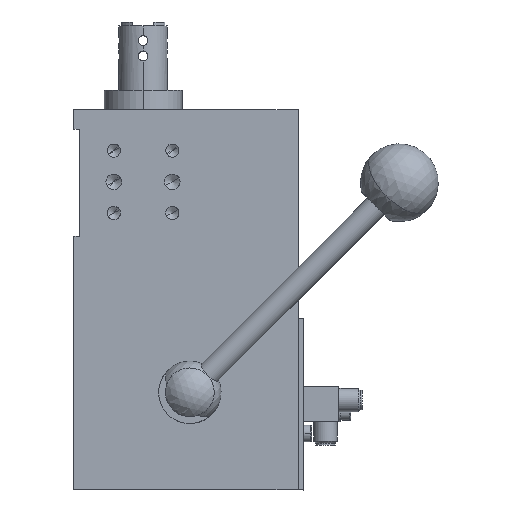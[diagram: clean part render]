
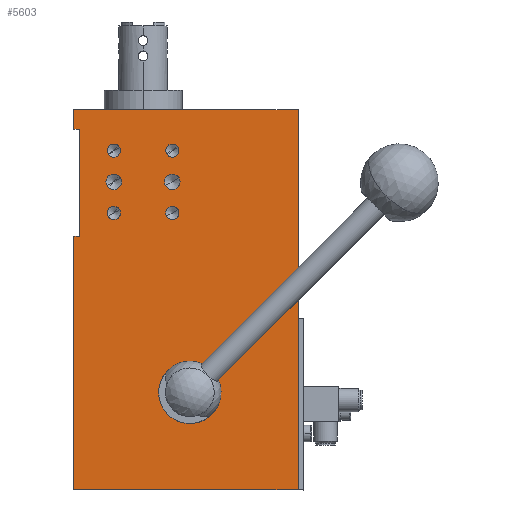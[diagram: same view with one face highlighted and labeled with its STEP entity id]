
A CAD part, top view. The second image highlights one B-rep face of the part: STEP entity #5603.
In plain terms, the highlighted planar face has unit normal (0, 0, 1).
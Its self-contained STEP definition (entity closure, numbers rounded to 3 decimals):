
#2221=CARTESIAN_POINT('Vertex',(31.,-145.,22.5)) ;
#2228=CARTESIAN_POINT('Vertex',(17.,-145.,22.5)) ;
#2231=CARTESIAN_POINT('Axis2P3D Location',(24.,-145.,22.5)) ;
#2243=CARTESIAN_POINT('Axis2P3D Location',(24.,-145.,22.5)) ;
#3475=CARTESIAN_POINT('Line Origine',(79.5,-151.,22.5)) ;
#3479=CARTESIAN_POINT('Vertex',(79.5,-107.,22.5)) ;
#3481=CARTESIAN_POINT('Vertex',(79.5,-195.,22.5)) ;
#4481=CARTESIAN_POINT('Vertex',(79.5,0.,22.5)) ;
#4484=CARTESIAN_POINT('Line Origine',(79.5,-53.5,22.5)) ;
#4541=CARTESIAN_POINT('Vertex',(-35.5,0.,22.5)) ;
#4544=CARTESIAN_POINT('Line Origine',(22.,0.,22.5)) ;
#4753=CARTESIAN_POINT('Vertex',(-35.5,-10.,22.5)) ;
#4756=CARTESIAN_POINT('Line Origine',(-35.5,-5.,22.5)) ;
#4826=CARTESIAN_POINT('Vertex',(-32.5,-10.,22.5)) ;
#4829=CARTESIAN_POINT('Line Origine',(-34.,-10.,22.5)) ;
#4896=CARTESIAN_POINT('Vertex',(-32.5,-65.,22.5)) ;
#4899=CARTESIAN_POINT('Line Origine',(-32.5,-37.5,22.5)) ;
#5094=CARTESIAN_POINT('Vertex',(-35.5,-65.,22.5)) ;
#5097=CARTESIAN_POINT('Line Origine',(-34.,-65.,22.5)) ;
#5463=CARTESIAN_POINT('Axis2P3D Location',(-35.5,-195.,22.5)) ;
#5468=CARTESIAN_POINT('Line Origine',(-35.5,-130.,22.5)) ;
#5472=CARTESIAN_POINT('Vertex',(-35.5,-195.,22.5)) ;
#5475=CARTESIAN_POINT('Line Origine',(22.,-195.,22.5)) ;
#5495=CARTESIAN_POINT('Axis2P3D Location',(-15.,-21.,22.5)) ;
#5499=CARTESIAN_POINT('Vertex',(-15.,-17.6,22.5)) ;
#5501=CARTESIAN_POINT('Vertex',(-15.,-24.4,22.5)) ;
#5504=CARTESIAN_POINT('Axis2P3D Location',(-15.,-21.,22.5)) ;
#5513=CARTESIAN_POINT('Axis2P3D Location',(-15.,-53.,22.5)) ;
#5517=CARTESIAN_POINT('Vertex',(-15.,-49.6,22.5)) ;
#5519=CARTESIAN_POINT('Vertex',(-15.,-56.4,22.5)) ;
#5522=CARTESIAN_POINT('Axis2P3D Location',(-15.,-53.,22.5)) ;
#5531=CARTESIAN_POINT('Axis2P3D Location',(-15.,-37.,22.5)) ;
#5535=CARTESIAN_POINT('Vertex',(-15.,-33.,22.5)) ;
#5537=CARTESIAN_POINT('Vertex',(-15.,-41.,22.5)) ;
#5540=CARTESIAN_POINT('Axis2P3D Location',(-15.,-37.,22.5)) ;
#5549=CARTESIAN_POINT('Axis2P3D Location',(15.,-21.,22.5)) ;
#5553=CARTESIAN_POINT('Vertex',(15.,-17.6,22.5)) ;
#5555=CARTESIAN_POINT('Vertex',(15.,-24.4,22.5)) ;
#5558=CARTESIAN_POINT('Axis2P3D Location',(15.,-21.,22.5)) ;
#5567=CARTESIAN_POINT('Axis2P3D Location',(15.,-53.,22.5)) ;
#5571=CARTESIAN_POINT('Vertex',(15.,-49.6,22.5)) ;
#5573=CARTESIAN_POINT('Vertex',(15.,-56.4,22.5)) ;
#5576=CARTESIAN_POINT('Axis2P3D Location',(15.,-53.,22.5)) ;
#5585=CARTESIAN_POINT('Axis2P3D Location',(15.,-37.,22.5)) ;
#5589=CARTESIAN_POINT('Vertex',(15.,-33.,22.5)) ;
#5591=CARTESIAN_POINT('Vertex',(15.,-41.,22.5)) ;
#5594=CARTESIAN_POINT('Axis2P3D Location',(15.,-37.,22.5)) ;
#2232=DIRECTION('Axis2P3D Direction',(0.,0.,-1.)) ;
#2244=DIRECTION('Axis2P3D Direction',(0.,0.,-1.)) ;
#3476=DIRECTION('Vector Direction',(0.,1.,0.)) ;
#4485=DIRECTION('Vector Direction',(0.,1.,0.)) ;
#4545=DIRECTION('Vector Direction',(1.,0.,0.)) ;
#4757=DIRECTION('Vector Direction',(0.,1.,0.)) ;
#4830=DIRECTION('Vector Direction',(1.,0.,0.)) ;
#4900=DIRECTION('Vector Direction',(0.,1.,0.)) ;
#5098=DIRECTION('Vector Direction',(1.,0.,0.)) ;
#5464=DIRECTION('Axis2P3D Direction',(0.,0.,-1.)) ;
#5465=DIRECTION('Axis2P3D XDirection',(0.,1.,0.)) ;
#5469=DIRECTION('Vector Direction',(0.,1.,0.)) ;
#5476=DIRECTION('Vector Direction',(1.,0.,0.)) ;
#5496=DIRECTION('Axis2P3D Direction',(0.,0.,-1.)) ;
#5505=DIRECTION('Axis2P3D Direction',(0.,0.,-1.)) ;
#5514=DIRECTION('Axis2P3D Direction',(0.,0.,-1.)) ;
#5523=DIRECTION('Axis2P3D Direction',(0.,0.,-1.)) ;
#5532=DIRECTION('Axis2P3D Direction',(0.,0.,-1.)) ;
#5541=DIRECTION('Axis2P3D Direction',(0.,0.,-1.)) ;
#5550=DIRECTION('Axis2P3D Direction',(0.,0.,-1.)) ;
#5559=DIRECTION('Axis2P3D Direction',(0.,0.,-1.)) ;
#5568=DIRECTION('Axis2P3D Direction',(0.,0.,-1.)) ;
#5577=DIRECTION('Axis2P3D Direction',(0.,0.,-1.)) ;
#5586=DIRECTION('Axis2P3D Direction',(0.,0.,-1.)) ;
#5595=DIRECTION('Axis2P3D Direction',(0.,0.,-1.)) ;
#2233=AXIS2_PLACEMENT_3D('Circle Axis2P3D',#2231,#2232,$) ;
#2245=AXIS2_PLACEMENT_3D('Circle Axis2P3D',#2243,#2244,$) ;
#5466=AXIS2_PLACEMENT_3D('Plane Axis2P3D',#5463,#5464,#5465) ;
#5497=AXIS2_PLACEMENT_3D('Circle Axis2P3D',#5495,#5496,$) ;
#5506=AXIS2_PLACEMENT_3D('Circle Axis2P3D',#5504,#5505,$) ;
#5515=AXIS2_PLACEMENT_3D('Circle Axis2P3D',#5513,#5514,$) ;
#5524=AXIS2_PLACEMENT_3D('Circle Axis2P3D',#5522,#5523,$) ;
#5533=AXIS2_PLACEMENT_3D('Circle Axis2P3D',#5531,#5532,$) ;
#5542=AXIS2_PLACEMENT_3D('Circle Axis2P3D',#5540,#5541,$) ;
#5551=AXIS2_PLACEMENT_3D('Circle Axis2P3D',#5549,#5550,$) ;
#5560=AXIS2_PLACEMENT_3D('Circle Axis2P3D',#5558,#5559,$) ;
#5569=AXIS2_PLACEMENT_3D('Circle Axis2P3D',#5567,#5568,$) ;
#5578=AXIS2_PLACEMENT_3D('Circle Axis2P3D',#5576,#5577,$) ;
#5587=AXIS2_PLACEMENT_3D('Circle Axis2P3D',#5585,#5586,$) ;
#5596=AXIS2_PLACEMENT_3D('Circle Axis2P3D',#5594,#5595,$) ;
#5481=ORIENTED_EDGE('',*,*,#4833,.T.) ;
#5482=ORIENTED_EDGE('',*,*,#4903,.T.) ;
#5483=ORIENTED_EDGE('',*,*,#5101,.F.) ;
#5484=ORIENTED_EDGE('',*,*,#5474,.T.) ;
#5485=ORIENTED_EDGE('',*,*,#5479,.T.) ;
#5486=ORIENTED_EDGE('',*,*,#3483,.F.) ;
#5487=ORIENTED_EDGE('',*,*,#4488,.F.) ;
#5488=ORIENTED_EDGE('',*,*,#4548,.F.) ;
#5489=ORIENTED_EDGE('',*,*,#4760,.T.) ;
#5492=ORIENTED_EDGE('',*,*,#2247,.T.) ;
#5493=ORIENTED_EDGE('',*,*,#2235,.T.) ;
#5510=ORIENTED_EDGE('',*,*,#5503,.F.) ;
#5511=ORIENTED_EDGE('',*,*,#5508,.F.) ;
#5528=ORIENTED_EDGE('',*,*,#5521,.F.) ;
#5529=ORIENTED_EDGE('',*,*,#5526,.F.) ;
#5546=ORIENTED_EDGE('',*,*,#5539,.F.) ;
#5547=ORIENTED_EDGE('',*,*,#5544,.F.) ;
#5564=ORIENTED_EDGE('',*,*,#5557,.F.) ;
#5565=ORIENTED_EDGE('',*,*,#5562,.F.) ;
#5582=ORIENTED_EDGE('',*,*,#5575,.F.) ;
#5583=ORIENTED_EDGE('',*,*,#5580,.F.) ;
#5600=ORIENTED_EDGE('',*,*,#5593,.F.) ;
#5601=ORIENTED_EDGE('',*,*,#5598,.F.) ;
#5494=FACE_BOUND('',#5491,.T.) ;
#5512=FACE_BOUND('',#5509,.T.) ;
#5530=FACE_BOUND('',#5527,.T.) ;
#5548=FACE_BOUND('',#5545,.T.) ;
#5566=FACE_BOUND('',#5563,.T.) ;
#5584=FACE_BOUND('',#5581,.T.) ;
#5602=FACE_BOUND('',#5599,.T.) ;
#3477=VECTOR('Line Direction',#3476,1.) ;
#4486=VECTOR('Line Direction',#4485,1.) ;
#4546=VECTOR('Line Direction',#4545,1.) ;
#4758=VECTOR('Line Direction',#4757,1.) ;
#4831=VECTOR('Line Direction',#4830,1.) ;
#4901=VECTOR('Line Direction',#4900,1.) ;
#5099=VECTOR('Line Direction',#5098,1.) ;
#5470=VECTOR('Line Direction',#5469,1.) ;
#5477=VECTOR('Line Direction',#5476,1.) ;
#5603=ADVANCED_FACE('PartBody',(#5490,#5494,#5512,#5530,#5548,#5566,#5584,#5602),#5467,.F.) ;
#2234=CIRCLE('generated circle',#2233,7.) ;
#2246=CIRCLE('generated circle',#2245,7.) ;
#5498=CIRCLE('generated circle',#5497,3.4) ;
#5507=CIRCLE('generated circle',#5506,3.4) ;
#5516=CIRCLE('generated circle',#5515,3.4) ;
#5525=CIRCLE('generated circle',#5524,3.4) ;
#5534=CIRCLE('generated circle',#5533,4.) ;
#5543=CIRCLE('generated circle',#5542,4.) ;
#5552=CIRCLE('generated circle',#5551,3.4) ;
#5561=CIRCLE('generated circle',#5560,3.4) ;
#5570=CIRCLE('generated circle',#5569,3.4) ;
#5579=CIRCLE('generated circle',#5578,3.4) ;
#5588=CIRCLE('generated circle',#5587,4.) ;
#5597=CIRCLE('generated circle',#5596,4.) ;
#2235=EDGE_CURVE('',#2222,#2229,#2234,.T.) ;
#2247=EDGE_CURVE('',#2229,#2222,#2246,.T.) ;
#3483=EDGE_CURVE('',#3480,#3482,#3478,.F.) ;
#4488=EDGE_CURVE('',#4482,#3480,#4487,.F.) ;
#4548=EDGE_CURVE('',#4542,#4482,#4547,.T.) ;
#4760=EDGE_CURVE('',#4542,#4754,#4759,.F.) ;
#4833=EDGE_CURVE('',#4754,#4827,#4832,.T.) ;
#4903=EDGE_CURVE('',#4827,#4897,#4902,.F.) ;
#5101=EDGE_CURVE('',#5095,#4897,#5100,.T.) ;
#5474=EDGE_CURVE('',#5095,#5473,#5471,.F.) ;
#5479=EDGE_CURVE('',#5473,#3482,#5478,.T.) ;
#5503=EDGE_CURVE('',#5500,#5502,#5498,.F.) ;
#5508=EDGE_CURVE('',#5502,#5500,#5507,.F.) ;
#5521=EDGE_CURVE('',#5518,#5520,#5516,.F.) ;
#5526=EDGE_CURVE('',#5520,#5518,#5525,.F.) ;
#5539=EDGE_CURVE('',#5536,#5538,#5534,.F.) ;
#5544=EDGE_CURVE('',#5538,#5536,#5543,.F.) ;
#5557=EDGE_CURVE('',#5554,#5556,#5552,.F.) ;
#5562=EDGE_CURVE('',#5556,#5554,#5561,.F.) ;
#5575=EDGE_CURVE('',#5572,#5574,#5570,.F.) ;
#5580=EDGE_CURVE('',#5574,#5572,#5579,.F.) ;
#5593=EDGE_CURVE('',#5590,#5592,#5588,.F.) ;
#5598=EDGE_CURVE('',#5592,#5590,#5597,.F.) ;
#5480=EDGE_LOOP('',(#5481,#5482,#5483,#5484,#5485,#5486,#5487,#5488,#5489)) ;
#5491=EDGE_LOOP('',(#5492,#5493)) ;
#5509=EDGE_LOOP('',(#5510,#5511)) ;
#5527=EDGE_LOOP('',(#5528,#5529)) ;
#5545=EDGE_LOOP('',(#5546,#5547)) ;
#5563=EDGE_LOOP('',(#5564,#5565)) ;
#5581=EDGE_LOOP('',(#5582,#5583)) ;
#5599=EDGE_LOOP('',(#5600,#5601)) ;
#5490=FACE_OUTER_BOUND('',#5480,.T.) ;
#3478=LINE('Line',#3475,#3477) ;
#4487=LINE('Line',#4484,#4486) ;
#4547=LINE('Line',#4544,#4546) ;
#4759=LINE('Line',#4756,#4758) ;
#4832=LINE('Line',#4829,#4831) ;
#4902=LINE('Line',#4899,#4901) ;
#5100=LINE('Line',#5097,#5099) ;
#5471=LINE('Line',#5468,#5470) ;
#5478=LINE('Line',#5475,#5477) ;
#5467=PLANE('Plane',#5466) ;
#2222=VERTEX_POINT('',#2221) ;
#2229=VERTEX_POINT('',#2228) ;
#3480=VERTEX_POINT('',#3479) ;
#3482=VERTEX_POINT('',#3481) ;
#4482=VERTEX_POINT('',#4481) ;
#4542=VERTEX_POINT('',#4541) ;
#4754=VERTEX_POINT('',#4753) ;
#4827=VERTEX_POINT('',#4826) ;
#4897=VERTEX_POINT('',#4896) ;
#5095=VERTEX_POINT('',#5094) ;
#5473=VERTEX_POINT('',#5472) ;
#5500=VERTEX_POINT('',#5499) ;
#5502=VERTEX_POINT('',#5501) ;
#5518=VERTEX_POINT('',#5517) ;
#5520=VERTEX_POINT('',#5519) ;
#5536=VERTEX_POINT('',#5535) ;
#5538=VERTEX_POINT('',#5537) ;
#5554=VERTEX_POINT('',#5553) ;
#5556=VERTEX_POINT('',#5555) ;
#5572=VERTEX_POINT('',#5571) ;
#5574=VERTEX_POINT('',#5573) ;
#5590=VERTEX_POINT('',#5589) ;
#5592=VERTEX_POINT('',#5591) ;
